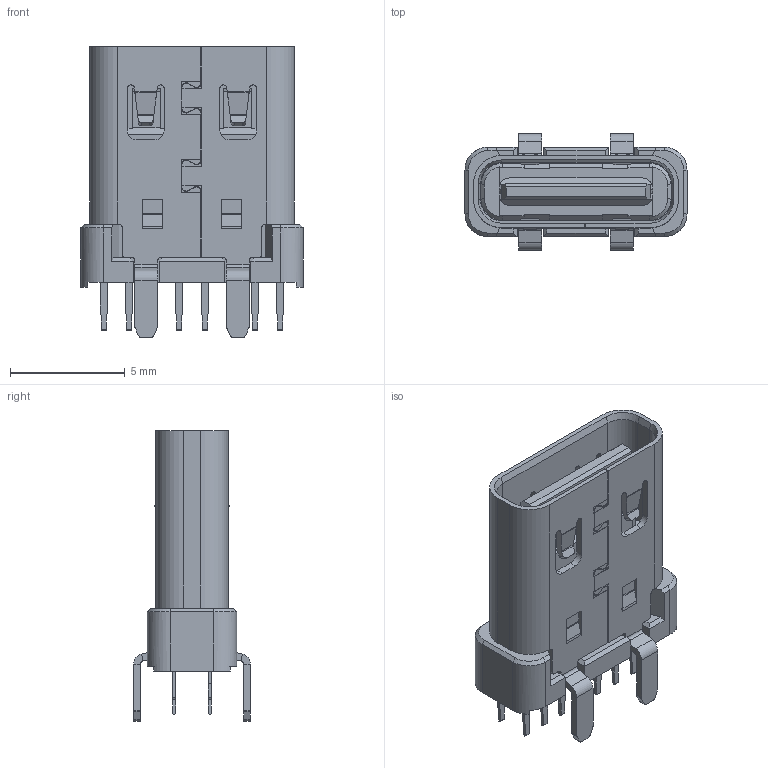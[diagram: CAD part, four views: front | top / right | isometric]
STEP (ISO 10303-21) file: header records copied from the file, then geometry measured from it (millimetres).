
FILE_DESCRIPTION((''),'2;1');
FILE_NAME('16P_H_10_5_3D','2025-08-18T',('PMT1 SFT'),(''),'PRO/ENGINEER BY PARAMETRIC TECHNOLOGY CORPORATION, 2011490','PRO/ENGINEER BY PARAMETRIC TECHNOLOGY CORPORATION, 2011490','');
FILE_SCHEMA(('CONFIG_CONTROL_DESIGN'));
Length unit declared in the file: millimetre
Products named in the file (1): 16P_H_10_5_3D
Bounding box: 9.7 x 5.1 x 12.7 mm (x, y, z)
Volume: 205.3 mm3; surface area: 711.4 mm2
Topology: 1 solids, 1 shells, 914 faces, 2455 edges, 1562 vertices
Faces by surface type: plane 739, cylinder 159, cone 16
Entity records: 28167 total; most frequent: CARTESIAN_POINT 5203, ORIENTED_EDGE 4910, DIRECTION 4501, EDGE_CURVE 2455, VECTOR 2101, LINE 2101, VERTEX_POINT 1562, AXIS2_PLACEMENT_3D 1200
